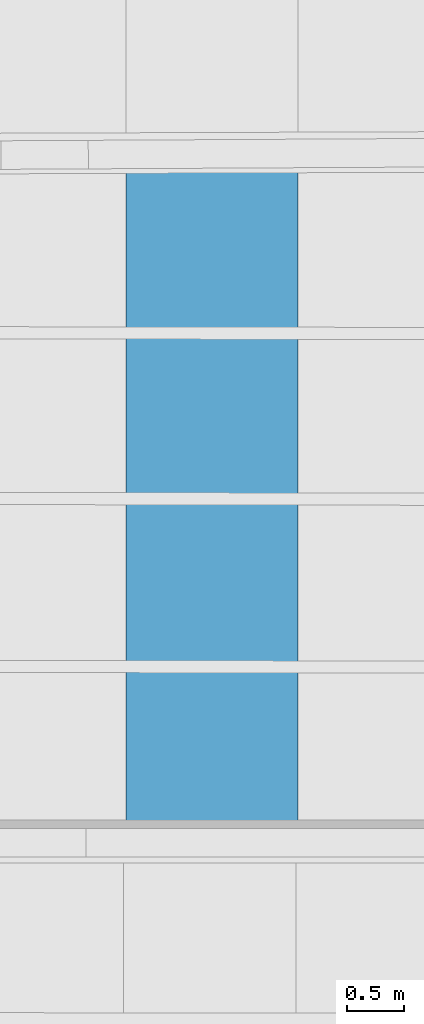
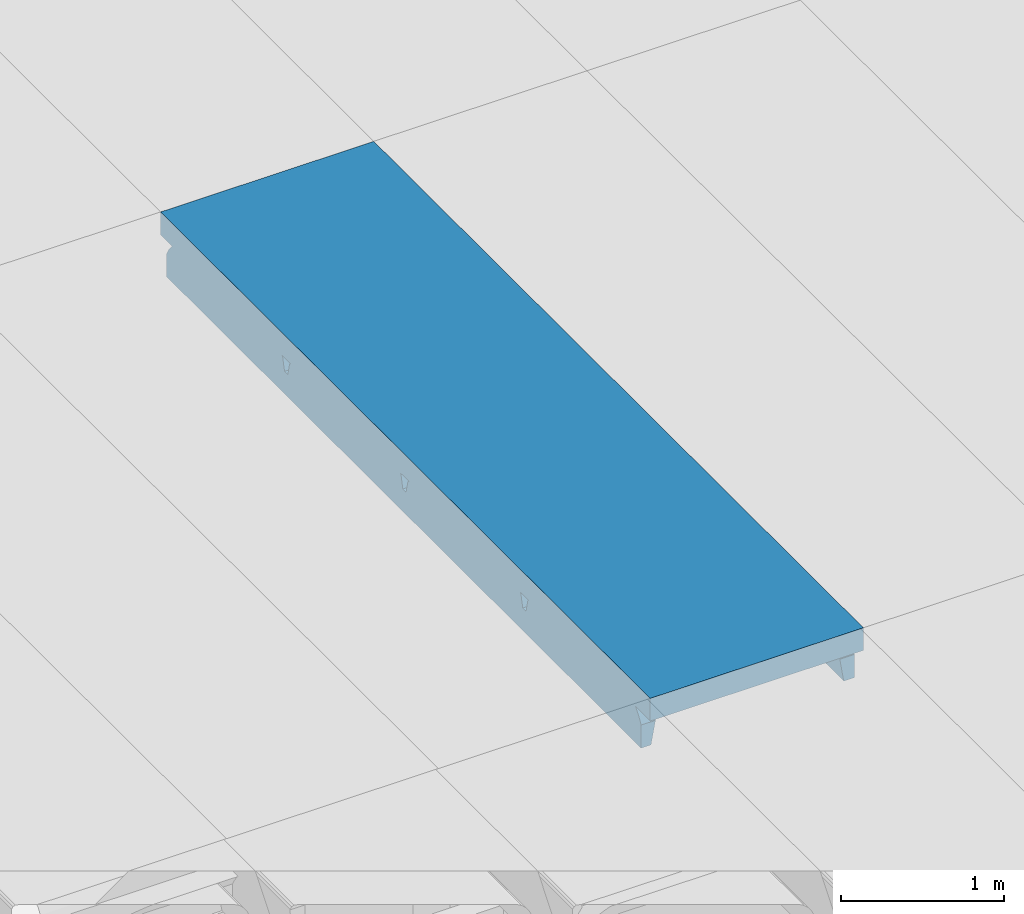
# One storey, part 56 of 301: 1 beam.
"""IFC2X3 building model written with IfcOpenShell, lengths in millimetres."""

from ifc_helpers import new_model, entity, si_unit, converted_unit, derived_unit, money_unit, direction, frame, origin_with_axes, place, context, subcontext, project, spatial, faceted_brep, material, type_object, element, save


model = new_model("IFC2X3")

# Units and contexts
model_context = context("Model", 3, precision=0.01, world=origin_with_axes(), true_north=direction((0.0, 1.0)))
body_context = subcontext(model_context, "Body", "Model", "MODEL_VIEW")
ifc_project = project(units=[si_unit("LENGTHUNIT", "METRE", prefix="MILLI"), si_unit("AREAUNIT", "SQUARE_METRE"), si_unit("VOLUMEUNIT", "CUBIC_METRE"), converted_unit("PLANEANGLEUNIT", "DEGREE", entity("IfcPlaneAngleMeasure", 0.0174532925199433), si_unit("PLANEANGLEUNIT", "RADIAN"), dimensions=[0, 0, 0, 0, 0, 0, 0]), money_unit("EUR"), converted_unit("TIMEUNIT", "Year", entity("IfcTimeMeasure", 31557600.0), si_unit("TIMEUNIT", "SECOND"), dimensions=[0, 0, 1, 0, 0, 0, 0]), si_unit("MASSUNIT", "GRAM", prefix="KILO"), si_unit("THERMODYNAMICTEMPERATUREUNIT", "DEGREE_CELSIUS"), si_unit("LUMINOUSINTENSITYUNIT", "LUMEN"), si_unit("ENERGYUNIT", "JOULE", prefix="MEGA"), derived_unit("THERMALCONDUCTANCEUNIT", [(si_unit("POWERUNIT", "WATT"), 1), (si_unit("LENGTHUNIT", "METRE"), -1), (si_unit("THERMODYNAMICTEMPERATUREUNIT", "KELVIN"), -1)]), derived_unit("SPECIFICHEATCAPACITYUNIT", [(si_unit("ENERGYUNIT", "JOULE"), 1), (si_unit("MASSUNIT", "GRAM", prefix="KILO"), -1), (si_unit("THERMODYNAMICTEMPERATUREUNIT", "KELVIN"), -1)]), derived_unit("MASSDENSITYUNIT", [(si_unit("MASSUNIT", "GRAM", prefix="KILO"), 1), (si_unit("VOLUMEUNIT", "CUBIC_METRE"), -1)])], contexts=[model_context])

# Site, building, storey
site_placement = place(None, frame((0.0, 0.0, 8650.0), z_axis=(0.0, 0.0, 1.0), x_axis=(1.0, 0.0, 0.0)))
site = spatial("IfcSite", under=ifc_project, at=site_placement, Name="43301:001:0844", CompositionType="ELEMENT")
building_placement = place(site_placement, origin_with_axes())
building = spatial("IfcBuilding", under=site, at=building_placement, Name="Kuressaare Ametikooli tuulikute mehaanikute õppekorpus", CompositionType="ELEMENT")
storey_placement = place(building_placement, origin_with_axes())
storey = spatial("IfcBuildingStorey", under=building, at=storey_placement, Name="1.korrus", CompositionType="ELEMENT", Elevation=0.0)

# Beam
ifc_material = material(Name="GENEERILINE - KONSTRUKTRIOON")
beam_type = type_object("IfcBeamType", Name="Precast Double Tee 2 1510 x 440", PredefinedType="NOTDEFINED")
beam_placement = place(storey_placement, frame((97980.87775377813, 56119.40411339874, 7100.000000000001), z_axis=(0.0, 0.0, 1.0), x_axis=(-1.0, 0.0, 0.0)))
element("IfcBeam", 1, at=beam_placement, inside=storey, type_object=beam_type, material=ifc_material, context=body_context, shape_type="Brep", body=[
    faceted_brep([(-754.9999999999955, 165.0385367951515, -169.8235046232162), (-754.9999999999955, 28.06462031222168, -169.8235046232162), (-754.9999999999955, 28.06462031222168, 0.0), (-754.9999999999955, 6034.170784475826, 0.0), (-754.9999999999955, 6034.170784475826, -169.8234995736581), (-754.9999999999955, 5855.0006219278, -169.8234995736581), (-754.9999999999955, 5865.963170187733, -181.3563575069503), (-754.9999999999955, 5897.635648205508, -222.371808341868), (-754.9999999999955, 5923.22763887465, -267.4324680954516), (-754.9999999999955, 5923.228161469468, -440.0001340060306), (-754.9999999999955, 96.81055767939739, -440.0001340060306), (-754.9999999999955, 96.81108027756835, -267.4324731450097), (-754.9999999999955, 122.4032358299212, -222.3718133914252), (-754.9999999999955, 154.0759179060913, -181.3563625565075), (-754.9999999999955, 1530.271270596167, -184.1935020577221), (-754.9999999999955, 1551.012217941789, -271.7709778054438), (-754.9999999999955, 1591.012271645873, -271.7709778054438), (-754.9999999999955, 1611.75225722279, -184.1936973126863), (-754.9999999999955, 1616.326876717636, -175.39783429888), (-754.9999999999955, 1624.52573434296, -169.8234995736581), (-754.9999999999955, 1517.497839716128, -169.8234995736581), (-754.9999999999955, 1525.696630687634, -175.3977593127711), (-754.9999999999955, 3002.12448059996, -271.7709778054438), (-754.9999999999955, 3042.124534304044, -271.7709778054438), (-754.9999999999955, 3062.864519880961, -184.1936973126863), (-754.9999999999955, 3067.439139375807, -175.39783429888), (-754.9999999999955, 3075.637997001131, -169.8234995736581), (-754.9999999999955, 2968.610102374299, -169.8234995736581), (-754.9999999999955, 2976.808893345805, -175.3977593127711), (-754.9999999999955, 2981.383533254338, -184.1935020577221), (-754.9999999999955, 4512.984590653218, -271.7709778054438), (-754.9999999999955, 4533.724576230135, -184.1936973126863), (-754.9999999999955, 4538.299195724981, -175.39783429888), (-754.9999999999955, 4546.498053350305, -169.8234995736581), (-754.9999999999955, 4439.470158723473, -169.8234995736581), (-754.9999999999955, 4447.668949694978, -175.3977593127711), (-754.9999999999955, 4452.243589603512, -184.1935020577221), (-754.9999999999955, 4472.984536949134, -271.7709778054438), (-588.1481649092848, 165.6392850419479, -169.8235046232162), (-588.1481649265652, 28.06462031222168, -169.8235046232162), (754.9999999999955, 28.06462031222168, -169.8235046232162), (754.9999999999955, 28.06462031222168, 0.0), (590.5789219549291, 28.06462031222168, -169.8234995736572), (593.6993855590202, 28.06462031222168, -169.7351493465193), (594.211646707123, 28.06462031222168, -169.8235046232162), (754.9999999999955, 6034.170784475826, 0.0), (754.9999999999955, 6034.170784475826, -169.8234995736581), (594.2116174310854, 6034.170784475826, -169.8234995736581), (593.6993855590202, 6034.170784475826, -169.7351493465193), (590.5789219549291, 6034.170784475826, -169.8234995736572), (-588.1481649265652, 6034.170784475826, -169.8234995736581), (-588.148164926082, 5854.954038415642, -169.8234995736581), (-608.1505435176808, 5858.360230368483, -173.40101840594), (-621.4954151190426, 5865.925896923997, -181.3563575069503), (-625.6043121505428, 5867.818534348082, -183.8058130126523), (-638.2645371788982, 5880.095386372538, -199.6996008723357), (-644.5028387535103, 5895.030477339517, -219.0380957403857), (-645.0308501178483, 5897.604945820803, -222.371808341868), (-652.1678002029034, 5923.198929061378, -267.4324680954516), (-679.4999969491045, 5923.207082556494, -440.0001340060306), (-679.4999969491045, 97.08239463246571, -440.0001340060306), (-652.1678010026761, 97.18132650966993, -267.4324731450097), (-645.030850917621, 122.7991785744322, -222.3718133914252), (-644.5028387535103, 125.3754212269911, -219.0380957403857), (-638.2645371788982, 140.3313276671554, -199.6996008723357), (-625.6043121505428, 152.650307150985, -183.8058130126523), (-621.4954235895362, 154.556599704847, -181.3563625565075), (-608.1505435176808, 162.1666421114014, -173.40101840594), (-625.9131265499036, 1530.059741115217, -184.1935020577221), (-638.2645371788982, 1533.752285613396, -199.6996008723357), (-644.5028387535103, 1538.342438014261, -219.0380957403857), (-652.8549567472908, 1550.844836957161, -271.7709778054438), (-652.8549567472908, 1590.844890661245, -271.7709778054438), (-644.5028387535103, 1603.319365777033, -219.0380957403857), (-638.2645371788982, 1607.888871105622, -199.6996008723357), (-625.9132820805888, 1611.540727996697, -184.1936973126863), (-625.6043121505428, 1611.741955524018, -183.8058130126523), (-611.5001495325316, 1616.091729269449, -175.39783429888), (-608.1505435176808, 1619.023202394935, -173.40101840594), (-588.1481649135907, 1624.252320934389, -169.8234995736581), (-588.1481649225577, 1517.224426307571, -169.8234995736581), (-608.1505435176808, 1522.519127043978, -173.40101840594), (-611.5000237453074, 1525.461483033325, -175.3977593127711), (-625.6043121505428, 1529.857599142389, -183.8058130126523), (-652.8549567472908, 3001.957099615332, -271.7709778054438), (-652.8549567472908, 3041.957153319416, -271.7709778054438), (-644.5028387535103, 3054.431628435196, -219.0380957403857), (-638.2645371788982, 3059.001133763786, -199.6996008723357), (-625.9132820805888, 3062.652990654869, -184.1936973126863), (-625.6043121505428, 3062.854218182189, -183.8058130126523), (-611.5001495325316, 3067.20399192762, -175.39783429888), (-608.1505435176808, 3070.135465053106, -173.40101840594), (-588.1481649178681, 3075.364583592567, -169.8234995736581), (-588.1481649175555, 2968.336688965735, -169.8234995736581), (-608.1505435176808, 2973.631389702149, -173.40101840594), (-611.5000237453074, 2976.573745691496, -175.3977593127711), (-625.6043121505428, 2980.96986180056, -183.8058130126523), (-625.9131265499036, 2981.172003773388, -184.1935020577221), (-638.2645371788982, 2984.86454827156, -199.6996008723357), (-644.5028387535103, 2989.454700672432, -219.0380957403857), (-638.2645371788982, 4529.861190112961, -199.6996008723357), (-625.9132820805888, 4533.513047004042, -184.1936973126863), (-652.8549567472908, 4512.81720966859, -271.7709778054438), (-644.5028387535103, 4525.291684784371, -219.0380957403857), (-625.6043121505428, 4533.714274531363, -183.8058130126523), (-611.5001495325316, 4538.064048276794, -175.39783429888), (-608.1505435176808, 4540.99552140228, -173.40101840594), (-588.1481649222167, 4546.224639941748, -169.8234995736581), (-588.148164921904, 4439.196745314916, -169.8234995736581), (-608.1505435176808, 4444.491446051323, -173.40101840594), (-611.5000237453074, 4447.43380204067, -175.3977593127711), (-625.6043121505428, 4451.829918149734, -183.8058130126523), (-625.9131265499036, 4452.032060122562, -184.1935020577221), (-644.5028387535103, 4460.314757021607, -219.0380957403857), (-652.8549567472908, 4472.817155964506, -271.7709778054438), (-638.2645371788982, 4455.724604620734, -199.6996008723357), (754.9999999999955, 170.4752756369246, -169.8235046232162), (754.9999999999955, 159.5126567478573, -181.3563625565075), (754.9999999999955, 127.8399746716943, -222.3718133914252), (754.9999999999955, 102.2478191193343, -267.4324731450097), (754.9999999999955, 102.2472965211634, -440.0001340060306), (754.9999999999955, 5922.806583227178, -440.0001340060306), (754.9999999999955, 5922.806060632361, -267.4324680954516), (754.9999999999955, 5897.214069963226, -222.371808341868), (754.9999999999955, 5865.541591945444, -181.3563575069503), (754.9999999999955, 5854.579043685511, -169.8234995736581), (754.9999999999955, 1613.852500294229, -175.39783429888), (754.9999999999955, 1609.277880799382, -184.1936973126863), (754.9999999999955, 1588.537895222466, -271.7709778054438), (754.9999999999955, 1548.537841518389, -271.7709778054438), (754.9999999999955, 1527.796894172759, -184.1935020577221), (754.9999999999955, 1523.222254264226, -175.3977593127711), (754.9999999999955, 1515.023463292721, -169.8234995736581), (754.9999999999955, 1622.05135791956, -169.8234995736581), (754.9999999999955, 3060.390143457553, -184.1936973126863), (754.9999999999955, 3039.650157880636, -271.7709778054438), (754.9999999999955, 2999.650104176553, -271.7709778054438), (754.9999999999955, 2978.90915683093, -184.1935020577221), (754.9999999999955, 2974.334516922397, -175.3977593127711), (754.9999999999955, 2966.135725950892, -169.8234995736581), (754.9999999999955, 3073.163620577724, -169.8234995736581), (754.9999999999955, 3064.9647629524, -175.39783429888), (754.9999999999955, 4510.510214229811, -271.7709778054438), (754.9999999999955, 4470.510160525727, -271.7709778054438), (754.9999999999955, 4449.769213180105, -184.1935020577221), (754.9999999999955, 4445.194573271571, -175.3977593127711), (754.9999999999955, 4436.995782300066, -169.8234995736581), (754.9999999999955, 4544.023676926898, -169.8234995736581), (754.9999999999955, 4535.824819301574, -175.39783429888), (754.9999999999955, 4531.250199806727, -184.1936973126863), (594.211646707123, 169.8963588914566, -169.8235046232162), (594.2116174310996, 5854.623934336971, -169.8234995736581), (610.5576441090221, 5857.299327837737, -172.6428773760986), (610.5576441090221, 4540.113564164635, -172.6428773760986), (594.2116174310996, 4544.287154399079, -169.8234995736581), (594.2116174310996, 4437.259259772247, -169.8234995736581), (610.5576441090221, 4441.379300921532, -172.6428773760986), (610.5576441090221, 3069.253507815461, -172.6428773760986), (594.2116174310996, 3073.427098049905, -169.8234995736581), (594.2116174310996, 2966.399203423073, -169.8234995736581), (610.5576441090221, 2970.519244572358, -172.6428773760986), (610.5576441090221, 1618.14124515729, -172.6428773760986), (594.2116174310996, 1622.314835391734, -169.8234995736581), (594.2116174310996, 1515.286940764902, -169.8234995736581), (610.5576441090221, 1519.406981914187, -172.6428773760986), (610.5576441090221, 167.2752428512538, -172.6428773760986), (625.4118792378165, 159.2625784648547, -181.1285984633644), (625.6051084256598, 159.0467718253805, -181.3563625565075), (636.4790028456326, 149.1882070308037, -194.1736948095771), (642.4305280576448, 136.8244510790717, -210.2122455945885), (644.6584606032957, 127.4426911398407, -222.3718133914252), (652.9146841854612, 101.8802620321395, -267.4324731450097), (684.5333333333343, 101.9935820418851, -440.0001340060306), (684.5333333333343, 5922.82625687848, -440.0001340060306), (652.9146832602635, 5922.834561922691, -267.4324680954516), (644.658459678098, 5897.244876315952, -222.371808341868), (625.6051041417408, 5865.577717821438, -181.3563575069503), (642.4305280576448, 5887.855781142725, -210.2122455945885), (636.4790028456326, 5875.472338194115, -194.1736948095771), (625.4118792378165, 5865.361275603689, -181.1285984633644), (625.4118792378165, 1611.084351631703, -181.1285984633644), (628.0122301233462, 1609.485970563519, -184.1936973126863), (615.3801898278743, 1614.081289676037, -175.39783429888), (642.4305280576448, 1603.300650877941, -210.2122455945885), (653.7096051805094, 1588.703875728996, -271.7709778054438), (636.4790028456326, 1607.10864091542, -194.1736948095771), (653.7096051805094, 1548.703822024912, -271.7709778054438), (642.4305280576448, 1534.143368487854, -210.2122455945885), (636.4790028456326, 1530.354715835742, -194.1736948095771), (628.0120644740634, 1528.004984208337, -184.1935020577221), (615.3800585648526, 1523.451043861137, -175.3977593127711), (625.4118792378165, 1526.415197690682, -181.1285984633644), (653.7096051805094, 3039.816138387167, -271.7709778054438), (628.0122301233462, 3060.598233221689, -184.1936973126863), (636.4790028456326, 3058.220903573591, -194.1736948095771), (642.4305280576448, 3054.412913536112, -210.2122455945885), (653.7096051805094, 2999.816084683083, -271.7709778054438), (642.4305280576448, 2985.255631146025, -210.2122455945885), (636.4790028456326, 2981.466978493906, -194.1736948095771), (628.0120644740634, 2979.117246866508, -184.1935020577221), (625.4118792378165, 2977.527460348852, -181.1285984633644), (615.3800585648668, 2974.563306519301, -175.3977593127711), (615.3801898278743, 3065.193552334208, -175.39783429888), (625.4118792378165, 3062.196614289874, -181.1285984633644), (653.7096051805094, 4510.676194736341, -271.7709778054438), (653.7096051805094, 4470.676141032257, -271.7709778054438), (642.4305280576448, 4456.115687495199, -210.2122455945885), (636.4790028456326, 4452.32703484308, -194.1736948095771), (628.0120644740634, 4449.977303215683, -184.1935020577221), (625.4118792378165, 4448.387516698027, -181.1285984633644), (615.3800585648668, 4445.423362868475, -175.3977593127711), (615.3801898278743, 4536.053608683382, -175.39783429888), (625.4118792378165, 4533.056670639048, -181.1285984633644), (628.0122301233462, 4531.458289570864, -184.1936973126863), (636.4790028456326, 4529.080959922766, -194.1736948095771), (642.4305280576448, 4525.272969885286, -210.2122455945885)], [[[0, 1, 2, 3, 4, 5, 6, 7, 8, 9, 10, 11, 12, 13], [14, 15, 16, 17, 18, 19, 20, 21], [22, 23, 24, 25, 26, 27, 28, 29], [30, 31, 32, 33, 34, 35, 36, 37]], [[38, 39, 1, 0]], [[40, 41, 2, 1, 39, 42, 43, 44]], [[3, 2, 41, 45]], [[45, 46, 47, 48, 49, 50, 4, 3]], [[51, 5, 4, 50]], [[6, 5, 51, 52, 53]], [[53, 54, 55, 56, 57, 7, 6]], [[58, 8, 7, 57]], [[59, 9, 8, 58]], [[10, 9, 59, 60]], [[60, 61, 11, 10]], [[61, 62, 12, 11]], [[12, 62, 63, 64, 65, 66, 13]], [[38, 0, 13, 66, 67]], [[68, 69, 70, 71, 15, 14]], [[16, 15, 71, 72]], [[72, 73, 74, 75, 17, 16]], [[17, 75, 76, 77, 18]], [[18, 77, 78, 79, 19]], [[20, 19, 79, 80]], [[20, 80, 81, 82, 21]], [[21, 82, 83, 68, 14]], [[22, 84, 85, 23]], [[86, 87, 88, 24, 23, 85]], [[88, 89, 90, 25, 24]], [[90, 91, 92, 26, 25]], [[26, 92, 93, 27]], [[93, 94, 95, 28, 27]], [[95, 96, 97, 29, 28]], [[98, 99, 84, 22, 29, 97]], [[100, 101, 31, 30, 102, 103]], [[104, 105, 32, 31, 101]], [[106, 107, 33, 32, 105]], [[107, 108, 34, 33]], [[109, 110, 35, 34, 108]], [[111, 112, 36, 35, 110]], [[113, 114, 37, 36, 112, 115]], [[114, 102, 30, 37]], [[49, 42, 39, 38, 80, 79, 93, 92, 108, 107, 51, 50]], [[45, 41, 40, 116, 117, 118, 119, 120, 121, 122, 123, 124, 125, 46], [126, 127, 128, 129, 130, 131, 132, 133], [134, 135, 136, 137, 138, 139, 140, 141], [142, 143, 144, 145, 146, 147, 148, 149]], [[48, 43, 42, 49]], [[150, 44, 43, 48, 47, 151, 152, 153, 154, 155, 156, 157, 158, 159, 160, 161, 162, 163, 164, 165]], [[116, 40, 44, 150]], [[125, 151, 47, 46]], [[52, 51, 107, 106]], [[52, 106, 105, 104, 54, 53]], [[54, 104, 101, 100, 55]], [[56, 55, 100, 103]], [[57, 56, 103, 102, 114, 113, 86, 85, 84, 99, 73, 72, 71, 70, 63, 62, 61, 60, 59, 58]], [[70, 69, 64, 63]], [[83, 65, 64, 69, 68]], [[67, 66, 65, 83, 82, 81]], [[81, 80, 38, 67]], [[98, 74, 73, 99]], [[75, 74, 98, 97, 96, 76]], [[77, 76, 96, 95, 94, 78]], [[93, 79, 78, 94]], [[87, 86, 113, 115]], [[87, 115, 112, 111, 89, 88]], [[89, 111, 110, 109, 91, 90]], [[92, 91, 109, 108]], [[150, 165, 166, 167, 117, 116]], [[167, 168, 169, 170, 118, 117]], [[119, 118, 170, 171]], [[120, 119, 171, 172]], [[172, 173, 121, 120]], [[121, 173, 174, 122]], [[122, 174, 175, 123]], [[176, 124, 123, 175, 177, 178]], [[151, 125, 124, 176, 179, 152]], [[180, 181, 127, 126, 182]], [[183, 184, 128, 127, 181, 185]], [[184, 186, 129, 128]], [[130, 129, 186, 187, 188, 189]], [[190, 131, 130, 189, 191]], [[163, 132, 131, 190, 164]], [[163, 162, 133, 132]], [[161, 182, 126, 133, 162]], [[192, 135, 134, 193, 194, 195]], [[196, 136, 135, 192]], [[136, 196, 197, 198, 199, 137]], [[138, 137, 199, 200, 201]], [[139, 138, 201, 160, 159]], [[158, 140, 139, 159]], [[202, 141, 140, 158, 157]], [[193, 134, 141, 202, 203]], [[143, 142, 204, 205]], [[205, 206, 207, 208, 144, 143]], [[144, 208, 209, 210, 145]], [[145, 210, 156, 155, 146]], [[147, 146, 155, 154]], [[148, 147, 154, 153, 211]], [[149, 148, 211, 212, 213]], [[142, 149, 213, 214, 215, 204]], [[179, 212, 211, 153, 152]], [[157, 156, 210, 209, 203, 202]], [[182, 161, 160, 201, 200, 180]], [[191, 166, 165, 164, 190]], [[168, 167, 166, 191, 189, 188]], [[188, 187, 169, 168]], [[206, 205, 204, 215, 177, 175, 174, 173, 172, 171, 170, 169, 187, 186, 184, 183, 197, 196, 192, 195]], [[178, 177, 215, 214]], [[178, 214, 213, 212, 179, 176]], [[181, 180, 200, 199, 198, 185]], [[197, 183, 185, 198]], [[203, 209, 208, 207, 194, 193]], [[195, 194, 207, 206]]]),
])

save(model, "model.ifc")
